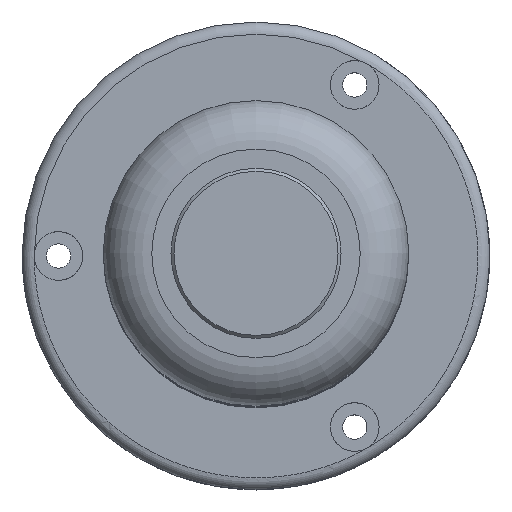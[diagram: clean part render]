
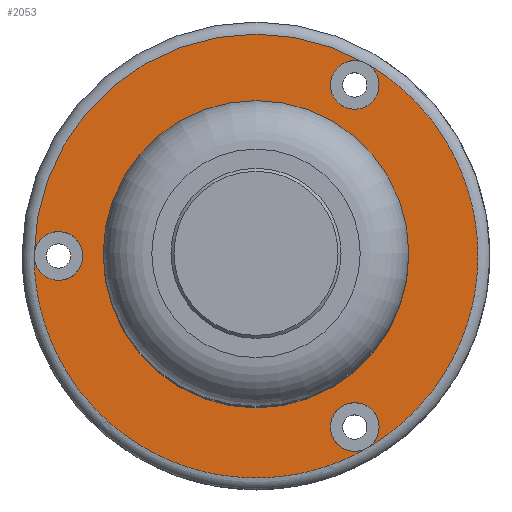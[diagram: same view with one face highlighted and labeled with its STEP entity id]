
A CAD part, top view. The second image highlights one B-rep face of the part: STEP entity #2053.
In plain terms, the highlighted planar face has unit normal (0, 0, -1).
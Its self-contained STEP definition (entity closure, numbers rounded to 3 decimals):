
#196=PLANE('',#26458);
#1608=FACE_BOUND('',#5090,.T.);
#1609=FACE_BOUND('',#5091,.T.);
#1610=FACE_BOUND('',#5092,.T.);
#1611=FACE_BOUND('',#5093,.T.);
#1612=FACE_BOUND('',#5094,.T.);
#2053=ADVANCED_FACE('',(#1608,#1609,#1610,#1611,#1612),#196,.T.);
#5090=EDGE_LOOP('',(#7885));
#5091=EDGE_LOOP('',(#7886));
#5092=EDGE_LOOP('',(#7887));
#5093=EDGE_LOOP('',(#7888));
#5094=EDGE_LOOP('',(#7889));
#7672=CIRCLE('',#26442,10.75);
#7680=CIRCLE('',#26454,2.);
#7681=CIRCLE('',#26455,2.);
#7682=CIRCLE('',#26456,2.);
#7683=CIRCLE('',#26457,38.);
#7885=ORIENTED_EDGE('',*,*,#17413,.T.);
#7886=ORIENTED_EDGE('',*,*,#17414,.T.);
#7887=ORIENTED_EDGE('',*,*,#17415,.T.);
#7888=ORIENTED_EDGE('',*,*,#17416,.T.);
#7889=ORIENTED_EDGE('',*,*,#17403,.F.);
#14978=VERTEX_POINT('',#38937);
#14988=VERTEX_POINT('',#39091);
#14989=VERTEX_POINT('',#39093);
#14990=VERTEX_POINT('',#39095);
#14991=VERTEX_POINT('',#39097);
#17403=EDGE_CURVE('',#14978,#14978,#7672,.T.);
#17413=EDGE_CURVE('',#14988,#14988,#7680,.T.);
#17414=EDGE_CURVE('',#14989,#14989,#7681,.T.);
#17415=EDGE_CURVE('',#14990,#14990,#7682,.T.);
#17416=EDGE_CURVE('',#14991,#14991,#7683,.T.);
#26442=AXIS2_PLACEMENT_3D('',#38936,#28072,#28073);
#26454=AXIS2_PLACEMENT_3D('',#39090,#28096,#28097);
#26455=AXIS2_PLACEMENT_3D('',#39092,#28098,#28099);
#26456=AXIS2_PLACEMENT_3D('',#39094,#28100,#28101);
#26457=AXIS2_PLACEMENT_3D('',#39096,#28102,#28103);
#26458=AXIS2_PLACEMENT_3D('',#39098,#28104,#28105);
#28072=DIRECTION('',(0.,0.,-1.));
#28073=DIRECTION('',(-1.,0.,0.));
#28096=DIRECTION('',(0.,0.,1.));
#28097=DIRECTION('',(1.,0.,0.));
#28098=DIRECTION('',(0.,0.,1.));
#28099=DIRECTION('',(1.,0.,0.));
#28100=DIRECTION('',(0.,0.,1.));
#28101=DIRECTION('',(1.,0.,0.));
#28102=DIRECTION('',(0.,0.,-1.));
#28103=DIRECTION('',(-1.,0.,0.));
#28104=DIRECTION('',(0.,0.,-1.));
#28105=DIRECTION('',(1.,0.,0.));
#38936=CARTESIAN_POINT('',(0.,-100.,-90.5));
#38937=CARTESIAN_POINT('',(-10.75,-100.,-90.5));
#39090=CARTESIAN_POINT('',(16.25,-71.854,-90.5));
#39091=CARTESIAN_POINT('',(18.25,-71.854,-90.5));
#39092=CARTESIAN_POINT('',(16.25,-128.146,-90.5));
#39093=CARTESIAN_POINT('',(18.25,-128.146,-90.5));
#39094=CARTESIAN_POINT('',(-32.5,-100.,-90.5));
#39095=CARTESIAN_POINT('',(-30.5,-100.,-90.5));
#39096=CARTESIAN_POINT('',(0.,-100.,-90.5));
#39097=CARTESIAN_POINT('',(-38.,-100.,-90.5));
#39098=CARTESIAN_POINT('',(0.,-100.,-90.5));
